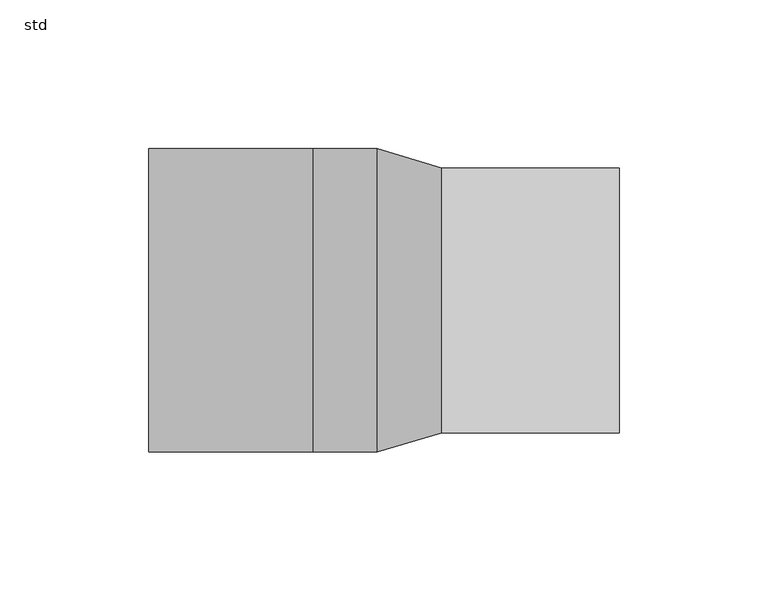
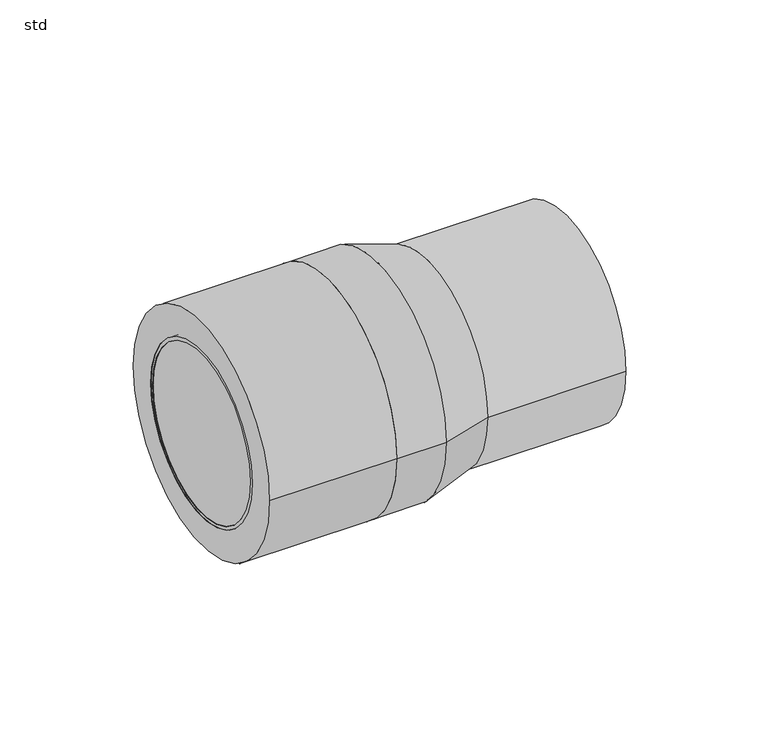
"""IFC4 building model written with IfcOpenShell, lengths in millimetres: pipe fitting geometry, PIF_ST_UN_GM-X compound pipe reducer (multiport)_ACO : std."""

from ifc_helpers import new_model, si_unit, point, frame, origin, origin_2d, place, context, project, spatial, polyline, circle_curve, trimmed, segment, composite_curve, outline, extrude, source, transform, mapped, element, save
from ifc_brep_helpers import plane_surface, cylinder_surface, revolved_surface, advanced_brep


def std_ed1bc5fe(model_context):
    return source(origin(), model_context, "Body", "SolidModel", [
        extrude(outline(composite_curve([segment(trimmed(circle_curve(origin_2d(), 51.0), [point((51.0, 0.0))], [point((-51.0, 0.0))], False, "CARTESIAN"), True, "CONTINUOUS"), segment(trimmed(circle_curve(origin_2d(), 51.0), [point((-51.0, 0.0))], [point((51.0, 0.0))], False, "CARTESIAN"), True, "CONTINUOUS")], self_intersect=False), holes=[composite_curve([segment(trimmed(circle_curve(origin_2d(), 38.0), [point((-38.0, 0.0))], [point((38.0, 0.0))], True, "CARTESIAN"), True, "CONTINUOUS"), segment(trimmed(circle_curve(origin_2d(), 38.0), [point((38.0, 0.0))], [point((-38.0, 0.0))], True, "CARTESIAN"), True, "CONTINUOUS")], self_intersect=False)]), frame((0.0, 0.0, 0.0), z_axis=(1.0, 0.0, 0.0), x_axis=(0.0, 1.0, 0.0)), (0.0, 0.0, 1.0), 55.0),
        advanced_brep(
        [(0.0, 38.0, 0.0), (0.0, -38.0, 0.0), (0.0, -36.5, 0.0), (0.0, 36.5, 0.0), (55.0, 38.0, 0.0), (55.0, -38.0, 0.0), (55.0, 36.5, 0.0), (55.0, -36.5, 0.0), (29.0, 38.0, 0.0), (29.0, -38.0, 0.0), (49.1, -38.0, 0.0), (49.1, 38.0, 0.0), (29.0, 42.1, 0.0), (29.0, -42.1, 0.0), (49.1, 42.1, 0.0), (49.1, -42.1, 0.0)],
        [
            (0, 1, circle_curve(frame((0.0, 0.0, 0.0), z_axis=(-1.0, 0.0, 0.0), x_axis=(0.0, -1.0, 0.0)), 38.0)),
            (1, 0, circle_curve(frame((0.0, 0.0, 0.0), z_axis=(-1.0, 0.0, 0.0), x_axis=(0.0, -1.0, 0.0)), 38.0)),
            (2, 3, circle_curve(frame((0.0, 0.0, 0.0), z_axis=(1.0, 0.0, 0.0), x_axis=(0.0, -1.0, 0.0)), 36.5)),
            (3, 2, circle_curve(frame((0.0, 0.0, 0.0), z_axis=(1.0, 0.0, 0.0), x_axis=(0.0, -1.0, 0.0)), 36.5)),
            (4, 5, circle_curve(frame((55.0, 0.0, 0.0), z_axis=(1.0, 0.0, 0.0), x_axis=(0.0, -1.0, 0.0)), 38.0)),
            (5, 4, circle_curve(frame((55.0, 0.0, 0.0), z_axis=(1.0, 0.0, 0.0), x_axis=(0.0, -1.0, 0.0)), 38.0)),
            (6, 7, circle_curve(frame((55.0, 0.0, 0.0), z_axis=(-1.0, 0.0, 0.0), x_axis=(0.0, -1.0, 0.0)), 36.5)),
            (7, 6, circle_curve(frame((55.0, 0.0, 0.0), z_axis=(-1.0, 0.0, 0.0), x_axis=(0.0, -1.0, 0.0)), 36.5)),
            (0, 8),
            (8, 9, circle_curve(frame((29.0, 0.0, 0.0), z_axis=(-1.0, 0.0, 0.0), x_axis=(0.0, -1.0, 0.0)), 38.0)),
            (9, 1),
            (5, 10),
            (10, 11, circle_curve(frame((49.1, 0.0, 0.0), z_axis=(1.0, 0.0, 0.0), x_axis=(0.0, -1.0, 0.0)), 38.0)),
            (11, 4),
            (9, 8, circle_curve(frame((29.0, 0.0, 0.0), z_axis=(-1.0, 0.0, 0.0), x_axis=(0.0, -1.0, 0.0)), 38.0)),
            (11, 10, circle_curve(frame((49.1, 0.0, 0.0), z_axis=(1.0, 0.0, 0.0), x_axis=(0.0, -1.0, 0.0)), 38.0)),
            (2, 7),
            (6, 3),
            (12, 13, circle_curve(frame((29.0, 0.0, 0.0), z_axis=(-1.0, 0.0, 0.0), x_axis=(0.0, -1.0, 0.0)), 42.1)),
            (13, 12, circle_curve(frame((29.0, 0.0, 0.0), z_axis=(-1.0, 0.0, 0.0), x_axis=(0.0, -1.0, 0.0)), 42.1)),
            (14, 15, circle_curve(frame((49.1, 0.0, 0.0), z_axis=(1.0, 0.0, 0.0), x_axis=(0.0, -1.0, 0.0)), 42.1)),
            (15, 14, circle_curve(frame((49.1, 0.0, 0.0), z_axis=(1.0, 0.0, 0.0), x_axis=(0.0, -1.0, 0.0)), 42.1)),
            (12, 14),
            (15, 13),
        ],
        [
            plane_surface(frame((0.0, -38.0, 0.0), z_axis=(-1.0, 0.0, 0.0), x_axis=(0.0, 0.0, 1.0))),
            plane_surface(frame((55.0, -38.0, 0.0), z_axis=(1.0, 0.0, 0.0), x_axis=(0.0, 0.0, -1.0))),
            cylinder_surface(frame((55.0, 0.0, 0.0), z_axis=(-1.0, 0.0, 0.0), x_axis=(0.0, -1.0, 0.0)), 38.0),
            revolved_surface(polyline([(0.0, -36.5, 0.0), (55.0, -36.5, 0.0)]), (55.0, 0.0, 0.0), (-1.0, 0.0, 0.0)),
            plane_surface(frame((29.0, -42.1, 0.0), z_axis=(-1.0, 0.0, 0.0), x_axis=(0.0, 0.0, 1.0))),
            plane_surface(frame((49.1, -42.1, 0.0), z_axis=(1.0, 0.0, 0.0), x_axis=(0.0, 0.0, -1.0))),
            cylinder_surface(frame((49.1, 0.0, 0.0), z_axis=(-1.0, 0.0, 0.0), x_axis=(0.0, -1.0, 0.0)), 42.1),
        ],
        [
            (0, [[1, 2], [3, 4]]),
            (1, [[5, 6], [7, 8]]),
            (2, [[-1, 9, 10, 11]]),
            (2, [[-6, 12, 13, 14]]),
            (2, [[-2, -11, 15, -9]]),
            (2, [[-5, -14, 16, -12]]),
            (3, [[17, -7, 18, -3]]),
            (3, [[-17, -4, -18, -8]]),
            (4, [[19, 20], [-10, -15]]),
            (5, [[21, 22], [-13, -16]]),
            (6, [[-19, 23, -22, 24]]),
            (6, [[-20, -24, -21, -23]]),
        ],
    ),
        advanced_brep(
        [(153.2, 31.5, 0.0), (153.2, -31.5, 0.0), (140.0, -31.5, 0.0), (140.0, 31.5, 0.0), (158.0, -28.0, 0.0), (158.0, 28.0, 0.0), (158.0, 26.5, 0.0), (158.0, -26.5, 0.0), (120.0, -28.0, 0.0), (120.0, 28.0, 0.0), (120.0, -26.5, 0.0), (120.0, 26.5, 0.0), (153.2, -28.0, 0.0), (153.2, 28.0, 0.0), (140.0, 28.0, 0.0), (140.0, -28.0, 0.0)],
        [
            (0, 1, circle_curve(frame((153.2, 0.0, 0.0), z_axis=(-1.0, 0.0, 0.0), x_axis=(0.0, 1.0, 0.0)), 31.5)),
            (1, 2),
            (2, 3, circle_curve(frame((140.0, 0.0, 0.0), z_axis=(1.0, 0.0, 0.0), x_axis=(0.0, 1.0, 0.0)), 31.5)),
            (3, 0),
            (1, 0, circle_curve(frame((153.2, 0.0, 0.0), z_axis=(-1.0, 0.0, 0.0), x_axis=(0.0, 1.0, 0.0)), 31.5)),
            (3, 2, circle_curve(frame((140.0, 0.0, 0.0), z_axis=(1.0, 0.0, 0.0), x_axis=(0.0, 1.0, 0.0)), 31.5)),
            (4, 5, circle_curve(frame((158.0, 0.0, 0.0), z_axis=(1.0, 0.0, 0.0), x_axis=(0.0, 1.0, 0.0)), 28.0)),
            (5, 4, circle_curve(frame((158.0, 0.0, 0.0), z_axis=(1.0, 0.0, 0.0), x_axis=(0.0, 1.0, 0.0)), 28.0)),
            (6, 7, circle_curve(frame((158.0, 0.0, 0.0), z_axis=(-1.0, 0.0, 0.0), x_axis=(0.0, 1.0, 0.0)), 26.5)),
            (7, 6, circle_curve(frame((158.0, 0.0, 0.0), z_axis=(-1.0, 0.0, 0.0), x_axis=(0.0, 1.0, 0.0)), 26.5)),
            (8, 9, circle_curve(frame((120.0, 0.0, 0.0), z_axis=(-1.0, 0.0, 0.0), x_axis=(0.0, 1.0, 0.0)), 28.0)),
            (9, 8, circle_curve(frame((120.0, 0.0, 0.0), z_axis=(-1.0, 0.0, 0.0), x_axis=(0.0, 1.0, 0.0)), 28.0)),
            (10, 11, circle_curve(frame((120.0, 0.0, 0.0), z_axis=(1.0, 0.0, 0.0), x_axis=(0.0, 1.0, 0.0)), 26.5)),
            (11, 10, circle_curve(frame((120.0, 0.0, 0.0), z_axis=(1.0, 0.0, 0.0), x_axis=(0.0, 1.0, 0.0)), 26.5)),
            (4, 12),
            (12, 13, circle_curve(frame((153.2, 0.0, 0.0), z_axis=(1.0, 0.0, 0.0), x_axis=(0.0, 1.0, 0.0)), 28.0)),
            (13, 5),
            (9, 14),
            (14, 15, circle_curve(frame((140.0, 0.0, 0.0), z_axis=(-1.0, 0.0, 0.0), x_axis=(0.0, 1.0, 0.0)), 28.0)),
            (15, 8),
            (13, 12, circle_curve(frame((153.2, 0.0, 0.0), z_axis=(1.0, 0.0, 0.0), x_axis=(0.0, 1.0, 0.0)), 28.0)),
            (15, 14, circle_curve(frame((140.0, 0.0, 0.0), z_axis=(-1.0, 0.0, 0.0), x_axis=(0.0, 1.0, 0.0)), 28.0)),
            (6, 11),
            (10, 7),
        ],
        [
            cylinder_surface(frame((140.0, 0.0, 0.0), z_axis=(1.0, 0.0, 0.0), x_axis=(0.0, 1.0, 0.0)), 31.5),
            plane_surface(frame((158.0, 28.0, 0.0), z_axis=(1.0, 0.0, 0.0), x_axis=(0.0, 0.0, 1.0))),
            plane_surface(frame((120.0, 28.0, 0.0), z_axis=(-1.0, 0.0, 0.0), x_axis=(0.0, 0.0, -1.0))),
            cylinder_surface(frame((120.0, 0.0, 0.0), z_axis=(1.0, 0.0, 0.0), x_axis=(0.0, 1.0, 0.0)), 28.0),
            revolved_surface(polyline([(158.0, 26.5, 0.0), (120.0, 26.5, 0.0)]), (120.0, 0.0, 0.0), (1.0, 0.0, 0.0)),
            plane_surface(frame((153.2, 31.5, 0.0), z_axis=(1.0, 0.0, 0.0), x_axis=(0.0, 0.0, 1.0))),
            plane_surface(frame((140.0, 31.5, 0.0), z_axis=(-1.0, 0.0, 0.0), x_axis=(0.0, 0.0, -1.0))),
        ],
        [
            (0, [[1, 2, 3, 4]]),
            (0, [[5, -4, 6, -2]]),
            (1, [[7, 8], [9, 10]]),
            (2, [[11, 12], [13, 14]]),
            (3, [[-7, 15, 16, 17]]),
            (3, [[-12, 18, 19, 20]]),
            (3, [[-8, -17, 21, -15]]),
            (3, [[-11, -20, 22, -18]]),
            (4, [[23, -13, 24, -9]]),
            (4, [[-23, -10, -24, -14]]),
            (5, [[-1, -5], [-16, -21]]),
            (6, [[-6, -3], [-19, -22]]),
        ],
    ),
        advanced_brep(
        [(158.0, 44.5, 0.0), (158.0, -44.5, 0.0), (158.0, -28.0, 0.0), (158.0, 28.0, 0.0), (98.3333333, 44.5, 0.0), (98.3333333, -44.5, 0.0), (120.0, 28.0, 0.0), (120.0, -28.0, 0.0), (76.6666667, 51.0, 0.0), (76.6666667, -51.0, 0.0), (55.0, -51.0, 0.0), (55.0, 51.0, 0.0)],
        [
            (0, 1, circle_curve(frame((158.0, 0.0, 0.0), z_axis=(1.0, 0.0, 0.0), x_axis=(0.0, -1.0, 0.0)), 44.5)),
            (1, 0, circle_curve(frame((158.0, 0.0, 0.0), z_axis=(1.0, 0.0, 0.0), x_axis=(0.0, -1.0, 0.0)), 44.5)),
            (2, 3, circle_curve(frame((158.0, 0.0, 0.0), z_axis=(-1.0, 0.0, 0.0), x_axis=(0.0, -1.0, 0.0)), 28.0)),
            (3, 2, circle_curve(frame((158.0, 0.0, 0.0), z_axis=(-1.0, 0.0, 0.0), x_axis=(0.0, -1.0, 0.0)), 28.0)),
            (0, 4),
            (4, 5, circle_curve(frame((98.3333333, 0.0, 0.0), z_axis=(1.0, 0.0, 0.0), x_axis=(0.0, -1.0, 0.0)), 44.5)),
            (5, 1),
            (5, 4, circle_curve(frame((98.3333333, 0.0, 0.0), z_axis=(1.0, 0.0, 0.0), x_axis=(0.0, -1.0, 0.0)), 44.5)),
            (6, 7, circle_curve(frame((120.0, 0.0, 0.0), z_axis=(1.0, 0.0, 0.0), x_axis=(0.0, -1.0, 0.0)), 28.0)),
            (7, 6, circle_curve(frame((120.0, 0.0, 0.0), z_axis=(1.0, 0.0, 0.0), x_axis=(0.0, -1.0, 0.0)), 28.0)),
            (6, 3),
            (2, 7),
            (8, 4),
            (5, 9),
            (9, 8, circle_curve(frame((76.6666667, 0.0, 0.0), z_axis=(1.0, 0.0, 0.0), x_axis=(0.0, -1.0, 0.0)), 51.0)),
            (8, 9, circle_curve(frame((76.6666667, 0.0, 0.0), z_axis=(1.0, 0.0, 0.0), x_axis=(0.0, 1.0, 0.0)), 51.0)),
            (10, 11, circle_curve(frame((55.0, 0.0, 0.0), z_axis=(-1.0, 0.0, 0.0), x_axis=(0.0, 1.0, 0.0)), 51.0)),
            (11, 10, circle_curve(frame((55.0, 0.0, 0.0), z_axis=(-1.0, 0.0, 0.0), x_axis=(0.0, 1.0, 0.0)), 51.0)),
            (10, 9),
            (8, 11),
        ],
        [
            plane_surface(frame((158.0, -44.5, 0.0), z_axis=(1.0, 0.0, 0.0), x_axis=(0.0, 0.0, -1.0))),
            cylinder_surface(frame((98.3333333, 0.0, 0.0), z_axis=(1.0, 0.0, 0.0), x_axis=(0.0, -1.0, 0.0)), 44.5),
            plane_surface(frame((120.0, -28.0, 0.0), z_axis=(1.0, 0.0, 0.0), x_axis=(0.0, 0.0, 1.0))),
            revolved_surface(polyline([(158.0, -28.0, 0.0), (120.0, -28.0, 0.0)]), (120.0, 0.0, 0.0), (1.0, 0.0, 0.0)),
            revolved_surface(polyline([(98.33333329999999, 44.50000002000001, 0.0), (76.66666670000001, 51.0, 0.0)]), (246.6666667, 0.0, 0.0), (-1.0, 0.0, 0.0)),
            plane_surface(frame((55.0, 51.0, 0.0), z_axis=(-1.0, 0.0, 0.0), x_axis=(0.0, 0.0, -1.0))),
            cylinder_surface(frame((76.6666667, 0.0, 0.0), z_axis=(-1.0, 0.0, 0.0), x_axis=(0.0, 1.0, 0.0)), 51.0),
        ],
        [
            (0, [[1, 2], [3, 4]]),
            (1, [[-1, 5, 6, 7]]),
            (1, [[-2, -7, 8, -5]]),
            (2, [[9, 10]]),
            (3, [[-9, 11, -3, 12]]),
            (3, [[-10, -12, -4, -11]]),
            (4, [[13, -8, 14, 15]]),
            (4, [[-13, 16, -14, -6]]),
            (5, [[17, 18]]),
            (6, [[-17, 19, -16, 20]]),
            (6, [[-18, -20, -15, -19]]),
        ],
    ),
        extrude(outline(composite_curve([segment(trimmed(circle_curve(origin_2d(), 36.5), [point((-36.5, 0.0))], [point((36.5, 0.0))], False, "CARTESIAN"), True, "CONTINUOUS"), segment(trimmed(circle_curve(origin_2d(), 36.5), [point((36.5, 0.0))], [point((-36.5, 0.0))], False, "CARTESIAN"), True, "CONTINUOUS")], self_intersect=False)), frame((0.0, 0.0, 0.0), z_axis=(1.0, 0.0, 0.0), x_axis=(0.0, 1.0, 0.0)), (0.0, 0.0, 1.0), 55.0),
    ])


if __name__ == "__main__":
    model = new_model("IFC4")
    model_context = context("Model", 3, world=origin())
    ifc_project = project(units=[si_unit("LENGTHUNIT", "METRE", prefix="MILLI")], contexts=[model_context])
    site = spatial("IfcSite", under=ifc_project)
    building = spatial("IfcBuilding", under=site)
    placement = place(None, origin())
    std_shape = std_ed1bc5fe(model_context)
    element("IfcPipeFitting", 1, ObjectType="PIF_ST_UN_GM-X compound pipe reducer (multiport)_ACO : std", at=placement, inside=building, context=model_context, shape_type="MappedRepresentation", body=[
        mapped(std_shape, transform((0.0, 0.0, 0.0), x_axis=(1.0, 0.0, 0.0), y_axis=(0.0, 1.0, 0.0), z_axis=(0.0, 0.0, 1.0))),
    ])
    save(model, "model.ifc")
